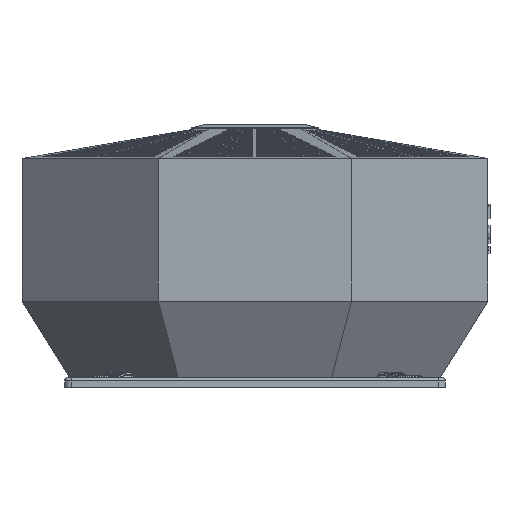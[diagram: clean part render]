
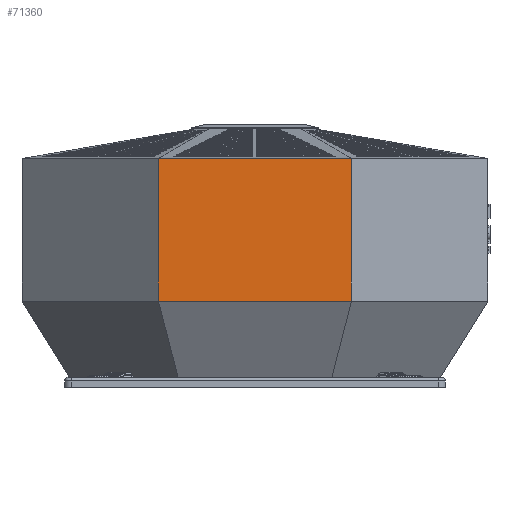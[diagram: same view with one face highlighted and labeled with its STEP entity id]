
A CAD part, left-side view. The second image highlights one B-rep face of the part: STEP entity #71360.
In plain terms, the highlighted planar face has unit normal (-1, 0, 0).
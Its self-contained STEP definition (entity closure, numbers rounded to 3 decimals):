
#8667=FACE_OUTER_BOUND('',#12751,.T.);
#12751=EDGE_LOOP('',(#62538,#62539,#62540,#62541));
#13965=LINE('',#105237,#20235);
#19023=LINE('',#124611,#25293);
#19024=LINE('',#124616,#25294);
#19029=LINE('',#124626,#25299);
#20235=VECTOR('',#79502,10.);
#25293=VECTOR('',#95694,10.);
#25294=VECTOR('',#95703,10.);
#25299=VECTOR('',#95714,10.);
#27413=VERTEX_POINT('',#104600);
#27722=VERTEX_POINT('',#105235);
#29054=VERTEX_POINT('',#111851);
#29055=VERTEX_POINT('',#111859);
#34894=EDGE_CURVE('',#27413,#27722,#13965,.T.);
#42706=EDGE_CURVE('',#27722,#29055,#19023,.T.);
#42707=EDGE_CURVE('',#27413,#29054,#19024,.T.);
#42712=EDGE_CURVE('',#29055,#29054,#19029,.T.);
#62538=ORIENTED_EDGE('',*,*,#34894,.T.);
#62539=ORIENTED_EDGE('',*,*,#42706,.T.);
#62540=ORIENTED_EDGE('',*,*,#42712,.T.);
#62541=ORIENTED_EDGE('',*,*,#42707,.F.);
#64496=PLANE('',#77406);
#71360=ADVANCED_FACE('',(#8667),#64496,.T.);
#77406=AXIS2_PLACEMENT_3D('',#124625,#95712,#95713);
#79502=DIRECTION('',(0.,1.,0.));
#95694=DIRECTION('',(0.,0.,-1.));
#95703=DIRECTION('',(0.,0.,-1.));
#95712=DIRECTION('center_axis',(-1.,0.,0.));
#95713=DIRECTION('ref_axis',(0.,1.,0.));
#95714=DIRECTION('',(0.,-1.,0.));
#104600=CARTESIAN_POINT('',(280.345,1109.009,522.25));
#105235=CARTESIAN_POINT('',(280.345,1392.745,522.25));
#105237=CARTESIAN_POINT('',(280.345,1008.693,522.25));
#111851=CARTESIAN_POINT('',(280.345,1109.009,312.75));
#111859=CARTESIAN_POINT('',(280.345,1392.745,312.75));
#124611=CARTESIAN_POINT('',(280.345,1392.745,572.25));
#124616=CARTESIAN_POINT('',(280.345,1109.009,572.25));
#124625=CARTESIAN_POINT('Origin',(280.345,1109.009,572.25));
#124626=CARTESIAN_POINT('',(280.345,1008.693,312.75));
